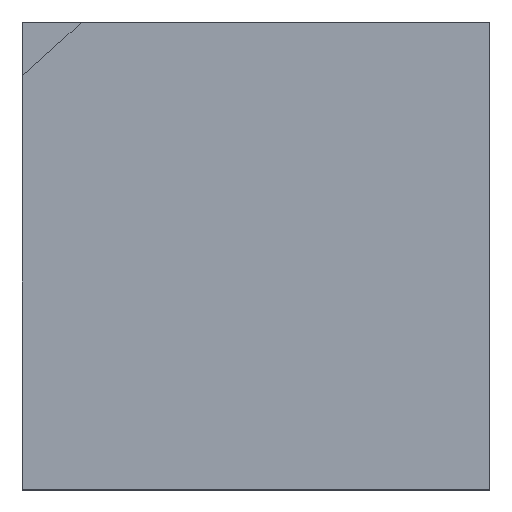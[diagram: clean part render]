
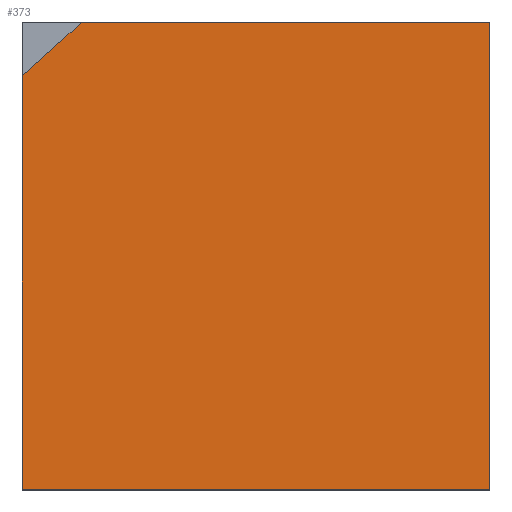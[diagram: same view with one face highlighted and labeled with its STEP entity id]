
A CAD part, top view. The second image highlights one B-rep face of the part: STEP entity #373.
In plain terms, the highlighted planar face has unit normal (0, 0, 1).
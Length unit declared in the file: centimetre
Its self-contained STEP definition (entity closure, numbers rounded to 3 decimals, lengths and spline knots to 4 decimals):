
#10 = LINE ( 'NONE', #337, #540 ) ;
#13 = VECTOR ( 'NONE', #490, 100. ) ;
#24 = LINE ( 'NONE', #200, #421 ) ;
#28 = LINE ( 'NONE', #297, #53 ) ;
#53 = VECTOR ( 'NONE', #208, 100. ) ;
#58 = LINE ( 'NONE', #303, #13 ) ;
#61 = CARTESIAN_POINT ( 'NONE',  ( 1000., 0., 1000. ) ) ;
#67 = CARTESIAN_POINT ( 'NONE',  ( 0., 885.1965, 1000. ) ) ;
#71 = DIRECTION ( 'NONE',  ( 0.745, 0.667, 0. ) ) ;
#83 = DIRECTION ( 'NONE',  ( 1., 0., 0. ) ) ;
#84 = EDGE_LOOP ( 'NONE', ( #392, #410, #388, #268, #453 ) ) ;
#94 = EDGE_CURVE ( 'NONE', #590, #122, #28, .T. ) ;
#105 = CARTESIAN_POINT ( 'NONE',  ( 1000., 1000., 1000. ) ) ;
#122 = VERTEX_POINT ( 'NONE', #105 ) ;
#127 = EDGE_CURVE ( 'NONE', #584, #362, #58, .T. ) ;
#144 = DIRECTION ( 'NONE',  ( 1., 0., 0. ) ) ;
#176 = CARTESIAN_POINT ( 'NONE',  ( 0., 0., 1000. ) ) ;
#195 = EDGE_CURVE ( 'NONE', #362, #590, #350, .T. ) ;
#200 = CARTESIAN_POINT ( 'NONE',  ( 0., 885.1965, 1000. ) ) ;
#208 = DIRECTION ( 'NONE',  ( 0., 1., 0. ) ) ;
#218 = CARTESIAN_POINT ( 'NONE',  ( 0., 0., 1000. ) ) ;
#257 = CARTESIAN_POINT ( 'NONE',  ( 0., 0., 1000. ) ) ;
#261 = VERTEX_POINT ( 'NONE', #331 ) ;
#266 = PLANE ( 'NONE',  #328 ) ;
#268 = ORIENTED_EDGE ( 'NONE', *, *, #94, .T. ) ;
#283 = DIRECTION ( 'NONE',  ( -1., 0., 0. ) ) ;
#291 = EDGE_CURVE ( 'NONE', #122, #261, #10, .T. ) ;
#297 = CARTESIAN_POINT ( 'NONE',  ( 1000., 1000., 1000. ) ) ;
#303 = CARTESIAN_POINT ( 'NONE',  ( 0., 1000., 1000. ) ) ;
#328 = AXIS2_PLACEMENT_3D ( 'NONE', #176, #600, #83 ) ;
#331 = CARTESIAN_POINT ( 'NONE',  ( 128.0752, 1000., 1000. ) ) ;
#337 = CARTESIAN_POINT ( 'NONE',  ( 0., 1000., 1000. ) ) ;
#350 = LINE ( 'NONE', #257, #473 ) ;
#362 = VERTEX_POINT ( 'NONE', #218 ) ;
#373 = ADVANCED_FACE ( 'NONE', ( #501 ), #266, .T. ) ;
#388 = ORIENTED_EDGE ( 'NONE', *, *, #195, .T. ) ;
#392 = ORIENTED_EDGE ( 'NONE', *, *, #560, .F. ) ;
#410 = ORIENTED_EDGE ( 'NONE', *, *, #127, .T. ) ;
#421 = VECTOR ( 'NONE', #71, 100. ) ;
#453 = ORIENTED_EDGE ( 'NONE', *, *, #291, .T. ) ;
#473 = VECTOR ( 'NONE', #144, 100. ) ;
#490 = DIRECTION ( 'NONE',  ( 0., -1., 0. ) ) ;
#501 = FACE_OUTER_BOUND ( 'NONE', #84, .T. ) ;
#540 = VECTOR ( 'NONE', #283, 100. ) ;
#560 = EDGE_CURVE ( 'NONE', #584, #261, #24, .T. ) ;
#584 = VERTEX_POINT ( 'NONE', #67 ) ;
#590 = VERTEX_POINT ( 'NONE', #61 ) ;
#600 = DIRECTION ( 'NONE',  ( 0., 0., 1. ) ) ;
